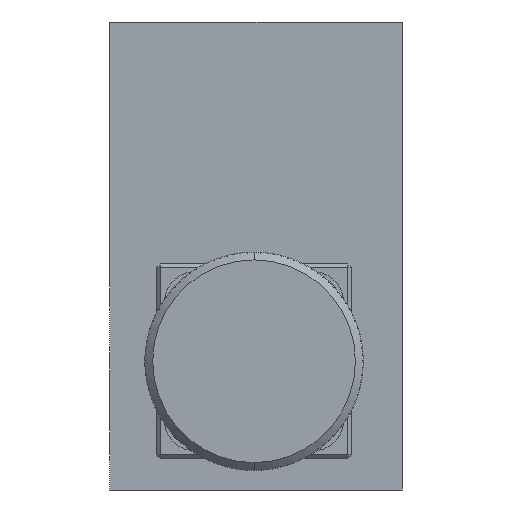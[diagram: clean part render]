
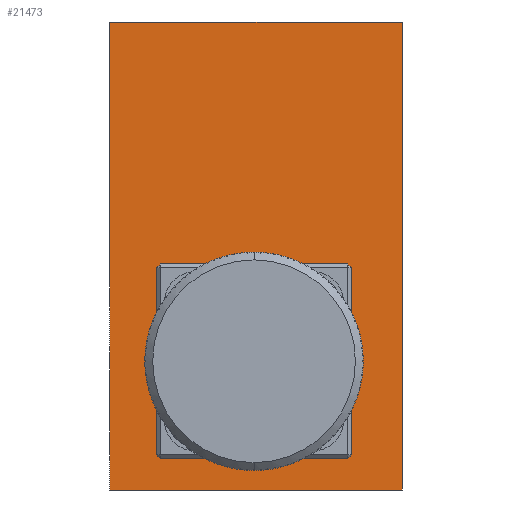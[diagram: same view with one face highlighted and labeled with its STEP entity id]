
A CAD part, left-side view. The second image highlights one B-rep face of the part: STEP entity #21473.
In plain terms, the highlighted planar face has unit normal (-1, 0, 0).
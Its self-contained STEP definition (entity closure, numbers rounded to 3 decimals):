
#511 = AXIS2_PLACEMENT_3D ( 'NONE', #12028, #26364, #14079 ) ;
#899 = ORIENTED_EDGE ( 'NONE', *, *, #11378, .F. ) ;
#1479 = VECTOR ( 'NONE', #4879, 1000. ) ;
#1791 = EDGE_LOOP ( 'NONE', ( #2778, #23627 ) ) ;
#1862 = CARTESIAN_POINT ( 'NONE',  ( 0., 0.25, -13.5 ) ) ;
#2033 = CARTESIAN_POINT ( 'NONE',  ( 0., 0.25, -17.75 ) ) ;
#2465 = EDGE_CURVE ( 'NONE', #23835, #4971, #13234, .T. ) ;
#2475 = DIRECTION ( 'NONE',  ( 0., 1., 0. ) ) ;
#2535 = VECTOR ( 'NONE', #11248, 1000. ) ;
#2778 = ORIENTED_EDGE ( 'NONE', *, *, #7808, .F. ) ;
#2845 = CARTESIAN_POINT ( 'NONE',  ( 0., -18.75, 30. ) ) ;
#3195 = VERTEX_POINT ( 'NONE', #12939 ) ;
#3418 = ORIENTED_EDGE ( 'NONE', *, *, #7720, .F. ) ;
#3639 = CIRCLE ( 'NONE', #17586, 1.65 ) ;
#3901 = DIRECTION ( 'NONE',  ( 0., 0., 1. ) ) ;
#3930 = CARTESIAN_POINT ( 'NONE',  ( 0., -7.25, -6. ) ) ;
#3932 = DIRECTION ( 'NONE',  ( -1., 0., 0. ) ) ;
#4008 = VERTEX_POINT ( 'NONE', #2033 ) ;
#4143 = EDGE_CURVE ( 'NONE', #4672, #6023, #14261, .T. ) ;
#4157 = DIRECTION ( 'NONE',  ( -1., 0., 0. ) ) ;
#4179 = DIRECTION ( 'NONE',  ( 0., 0., 1. ) ) ;
#4672 = VERTEX_POINT ( 'NONE', #16853 ) ;
#4879 = DIRECTION ( 'NONE',  ( 0., 0., -1. ) ) ;
#4966 = CARTESIAN_POINT ( 'NONE',  ( 0., 0.25, -13.5 ) ) ;
#4971 = VERTEX_POINT ( 'NONE', #24210 ) ;
#5344 = FACE_OUTER_BOUND ( 'NONE', #21328, .T. ) ;
#5464 = CARTESIAN_POINT ( 'NONE',  ( 0., 18.75, 30. ) ) ;
#5638 = ORIENTED_EDGE ( 'NONE', *, *, #9832, .F. ) ;
#5973 = FACE_BOUND ( 'NONE', #23806, .T. ) ;
#6023 = VERTEX_POINT ( 'NONE', #26338 ) ;
#7012 = DIRECTION ( 'NONE',  ( 0., 0., 1. ) ) ;
#7499 = DIRECTION ( 'NONE',  ( 0., 0., 1. ) ) ;
#7510 = LINE ( 'NONE', #2845, #1479 ) ;
#7637 = VECTOR ( 'NONE', #7499, 1000. ) ;
#7720 = EDGE_CURVE ( 'NONE', #26366, #4672, #7510, .T. ) ;
#7808 = EDGE_CURVE ( 'NONE', #26470, #4008, #13319, .T. ) ;
#7912 = ORIENTED_EDGE ( 'NONE', *, *, #4143, .F. ) ;
#8689 = VERTEX_POINT ( 'NONE', #15509 ) ;
#8834 = EDGE_CURVE ( 'NONE', #8689, #25251, #12720, .T. ) ;
#9244 = CARTESIAN_POINT ( 'NONE',  ( 0., -18.75, 30. ) ) ;
#9574 = DIRECTION ( 'NONE',  ( -1., 0., 0. ) ) ;
#9832 = EDGE_CURVE ( 'NONE', #4971, #23835, #3639, .T. ) ;
#10230 = CARTESIAN_POINT ( 'NONE',  ( 0., -7.25, -6. ) ) ;
#10352 = CARTESIAN_POINT ( 'NONE',  ( 0., 0.25, -9.25 ) ) ;
#10490 = CIRCLE ( 'NONE', #24860, 1.65 ) ;
#10799 = FACE_BOUND ( 'NONE', #1791, .T. ) ;
#11005 = AXIS2_PLACEMENT_3D ( 'NONE', #1862, #16184, #3901 ) ;
#11109 = ORIENTED_EDGE ( 'NONE', *, *, #2465, .F. ) ;
#11248 = DIRECTION ( 'NONE',  ( 0., -1., 0. ) ) ;
#11301 = EDGE_CURVE ( 'NONE', #4008, #26470, #16638, .T. ) ;
#11378 = EDGE_CURVE ( 'NONE', #3195, #26366, #22117, .T. ) ;
#11566 = AXIS2_PLACEMENT_3D ( 'NONE', #16214, #3932, #18270 ) ;
#12028 = CARTESIAN_POINT ( 'NONE',  ( 0., 18.75, -30. ) ) ;
#12310 = DIRECTION ( 'NONE',  ( 0., 0., 1. ) ) ;
#12720 = CIRCLE ( 'NONE', #11566, 1.65 ) ;
#12939 = CARTESIAN_POINT ( 'NONE',  ( 0., 18.75, 30. ) ) ;
#13234 = CIRCLE ( 'NONE', #24009, 1.65 ) ;
#13319 = CIRCLE ( 'NONE', #11005, 4.25 ) ;
#14079 = DIRECTION ( 'NONE',  ( 0., 0., 1. ) ) ;
#14261 = LINE ( 'NONE', #18877, #14906 ) ;
#14295 = CARTESIAN_POINT ( 'NONE',  ( 0., 7.75, -19.35 ) ) ;
#14676 = ORIENTED_EDGE ( 'NONE', *, *, #8834, .F. ) ;
#14906 = VECTOR ( 'NONE', #2475, 1000. ) ;
#15509 = CARTESIAN_POINT ( 'NONE',  ( 0., 7.75, -22.65 ) ) ;
#16050 = PLANE ( 'NONE',  #511 ) ;
#16184 = DIRECTION ( 'NONE',  ( -1., 0., 0. ) ) ;
#16214 = CARTESIAN_POINT ( 'NONE',  ( 0., 7.75, -21. ) ) ;
#16360 = EDGE_CURVE ( 'NONE', #6023, #3195, #17287, .T. ) ;
#16638 = CIRCLE ( 'NONE', #22262, 4.25 ) ;
#16688 = EDGE_LOOP ( 'NONE', ( #11109, #5638 ) ) ;
#16853 = CARTESIAN_POINT ( 'NONE',  ( 0., -18.75, -30. ) ) ;
#16863 = ORIENTED_EDGE ( 'NONE', *, *, #21354, .F. ) ;
#17287 = LINE ( 'NONE', #5464, #7637 ) ;
#17586 = AXIS2_PLACEMENT_3D ( 'NONE', #10230, #24567, #12310 ) ;
#18270 = DIRECTION ( 'NONE',  ( 0., 0., 1. ) ) ;
#18877 = CARTESIAN_POINT ( 'NONE',  ( 0., -18.75, -30. ) ) ;
#19325 = DIRECTION ( 'NONE',  ( -1., 0., 0. ) ) ;
#20716 = ORIENTED_EDGE ( 'NONE', *, *, #16360, .F. ) ;
#21328 = EDGE_LOOP ( 'NONE', ( #7912, #3418, #899, #20716 ) ) ;
#21354 = EDGE_CURVE ( 'NONE', #25251, #8689, #10490, .T. ) ;
#21473 = ADVANCED_FACE ( 'NONE', ( #5344, #5973, #26526, #10799 ), #16050, .T. ) ;
#21889 = CARTESIAN_POINT ( 'NONE',  ( 0., 7.75, -21. ) ) ;
#22117 = LINE ( 'NONE', #9244, #2535 ) ;
#22262 = AXIS2_PLACEMENT_3D ( 'NONE', #4966, #19325, #7012 ) ;
#23627 = ORIENTED_EDGE ( 'NONE', *, *, #11301, .F. ) ;
#23806 = EDGE_LOOP ( 'NONE', ( #16863, #14676 ) ) ;
#23835 = VERTEX_POINT ( 'NONE', #25074 ) ;
#23932 = DIRECTION ( 'NONE',  ( 0., 0., 1. ) ) ;
#24009 = AXIS2_PLACEMENT_3D ( 'NONE', #3930, #4157, #4179 ) ;
#24210 = CARTESIAN_POINT ( 'NONE',  ( 0., -7.25, -7.65 ) ) ;
#24430 = CARTESIAN_POINT ( 'NONE',  ( 0., -18.75, 30. ) ) ;
#24567 = DIRECTION ( 'NONE',  ( -1., 0., 0. ) ) ;
#24860 = AXIS2_PLACEMENT_3D ( 'NONE', #21889, #9574, #23932 ) ;
#25074 = CARTESIAN_POINT ( 'NONE',  ( 0., -7.25, -4.35 ) ) ;
#25251 = VERTEX_POINT ( 'NONE', #14295 ) ;
#26338 = CARTESIAN_POINT ( 'NONE',  ( 0., 18.75, -30. ) ) ;
#26364 = DIRECTION ( 'NONE',  ( -1., 0., 0. ) ) ;
#26366 = VERTEX_POINT ( 'NONE', #24430 ) ;
#26470 = VERTEX_POINT ( 'NONE', #10352 ) ;
#26526 = FACE_BOUND ( 'NONE', #16688, .T. ) ;
